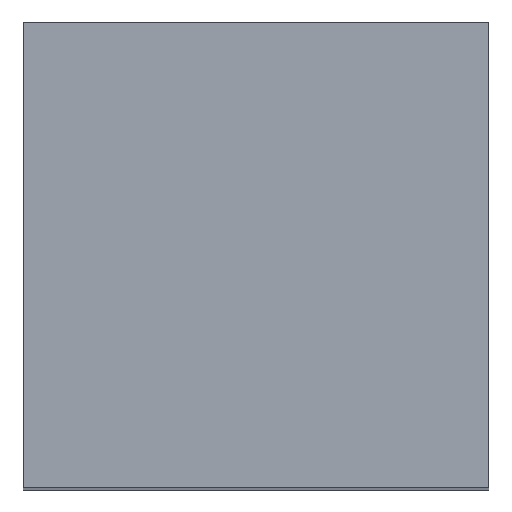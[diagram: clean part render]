
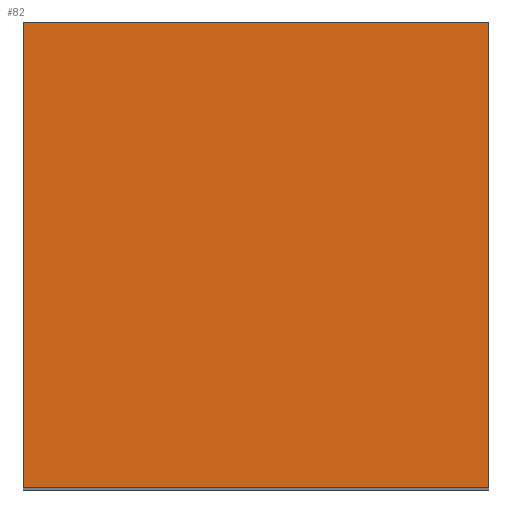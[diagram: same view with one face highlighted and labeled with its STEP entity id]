
A CAD part, top view. The second image highlights one B-rep face of the part: STEP entity #82.
In plain terms, the highlighted planar face has unit normal (0, 0, 1).
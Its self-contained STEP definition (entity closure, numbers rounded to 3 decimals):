
#82 = ADVANCED_FACE( '', ( #129 ), #130, .T. );
#129 = FACE_OUTER_BOUND( '', #223, .T. );
#130 = PLANE( '', #224 );
#223 = EDGE_LOOP( '', ( #340, #341, #342, #343 ) );
#224 = AXIS2_PLACEMENT_3D( '', #344, #345, #346 );
#340 = ORIENTED_EDGE( '', *, *, #481, .T. );
#341 = ORIENTED_EDGE( '', *, *, #485, .T. );
#342 = ORIENTED_EDGE( '', *, *, #490, .T. );
#343 = ORIENTED_EDGE( '', *, *, #491, .T. );
#344 = CARTESIAN_POINT( '', ( 0., 0., 86. ) );
#345 = DIRECTION( '', ( 0., 0., 1. ) );
#346 = DIRECTION( '', ( 1., 0., 0. ) );
#481 = EDGE_CURVE( '', #531, #529, #532, .T. );
#485 = EDGE_CURVE( '', #529, #536, #538, .T. );
#490 = EDGE_CURVE( '', #536, #546, #547, .T. );
#491 = EDGE_CURVE( '', #546, #531, #548, .T. );
#529 = VERTEX_POINT( '', #602 );
#531 = VERTEX_POINT( '', #605 );
#532 = LINE( '', #606, #607 );
#536 = VERTEX_POINT( '', #613 );
#538 = LINE( '', #616, #617 );
#546 = VERTEX_POINT( '', #627 );
#547 = LINE( '', #628, #629 );
#548 = LINE( '', #630, #631 );
#602 = CARTESIAN_POINT( '', ( -17., -17., 86. ) );
#605 = CARTESIAN_POINT( '', ( -17., 17., 86. ) );
#606 = CARTESIAN_POINT( '', ( -17., 17., 86. ) );
#607 = VECTOR( '', #690, 1000. );
#613 = CARTESIAN_POINT( '', ( 17., -17., 86. ) );
#616 = CARTESIAN_POINT( '', ( -17., -17., 86. ) );
#617 = VECTOR( '', #694, 1000. );
#627 = CARTESIAN_POINT( '', ( 17., 17., 86. ) );
#628 = CARTESIAN_POINT( '', ( 17., -17., 86. ) );
#629 = VECTOR( '', #703, 1000. );
#630 = CARTESIAN_POINT( '', ( 17., 17., 86. ) );
#631 = VECTOR( '', #704, 1000. );
#690 = DIRECTION( '', ( 0., -1., 0. ) );
#694 = DIRECTION( '', ( 1., 0., 0. ) );
#703 = DIRECTION( '', ( 0., 1., 0. ) );
#704 = DIRECTION( '', ( -1., 0., 0. ) );
